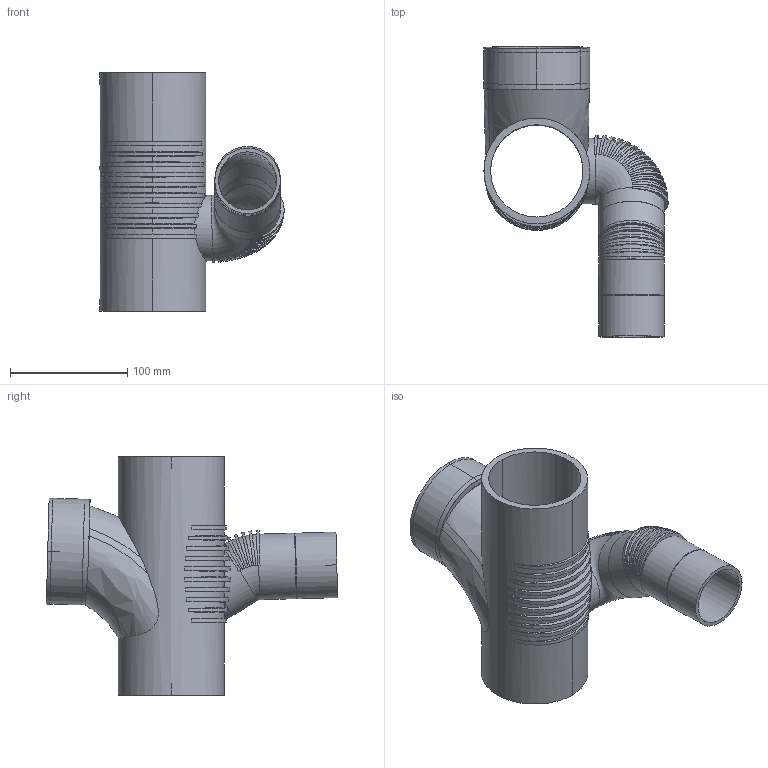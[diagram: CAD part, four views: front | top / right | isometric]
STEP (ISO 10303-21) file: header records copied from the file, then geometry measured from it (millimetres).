
FILE_DESCRIPTION(/* description */ (''),/* implementation_level */ '2;1');
FILE_NAME(/* name */ '308875.stp',/* time_stamp */ '2023-07-21T13:02:46+02:00',/* author */ ('JANAN'),/* organization */ (''),/* preprocessor_version */ 'ST-DEVELOPER v19.2',/* originating_system */ 'Autodesk Inventor 2023',/* authorisation */ '');
FILE_SCHEMA (('AUTOMOTIVE_DESIGN { 1 0 10303 214 3 1 1 }'));
Length unit declared in the file: millimetre
Products named in the file (1): tmpA843.tmp
Bounding box: 157.35 x 248.88 x 204 mm (x, y, z)
Volume: 497202 mm3; surface area: 211016 mm2
Topology: 1 solids, 1 shells, 197 faces, 537 edges, 358 vertices
Faces by surface type: plane 84, cylinder 57, bspline 29, cone 22, torus 5
Full cylindrical faces by diameter (mm): 49.6 x4, 56 x5
Entity records: 16507 total; most frequent: CARTESIAN_POINT 11484, ORIENTED_EDGE 1074, DIRECTION 906, EDGE_CURVE 537, AXIS2_PLACEMENT_3D 371, VERTEX_POINT 358, EDGE_LOOP 219, STYLED_ITEM 198
